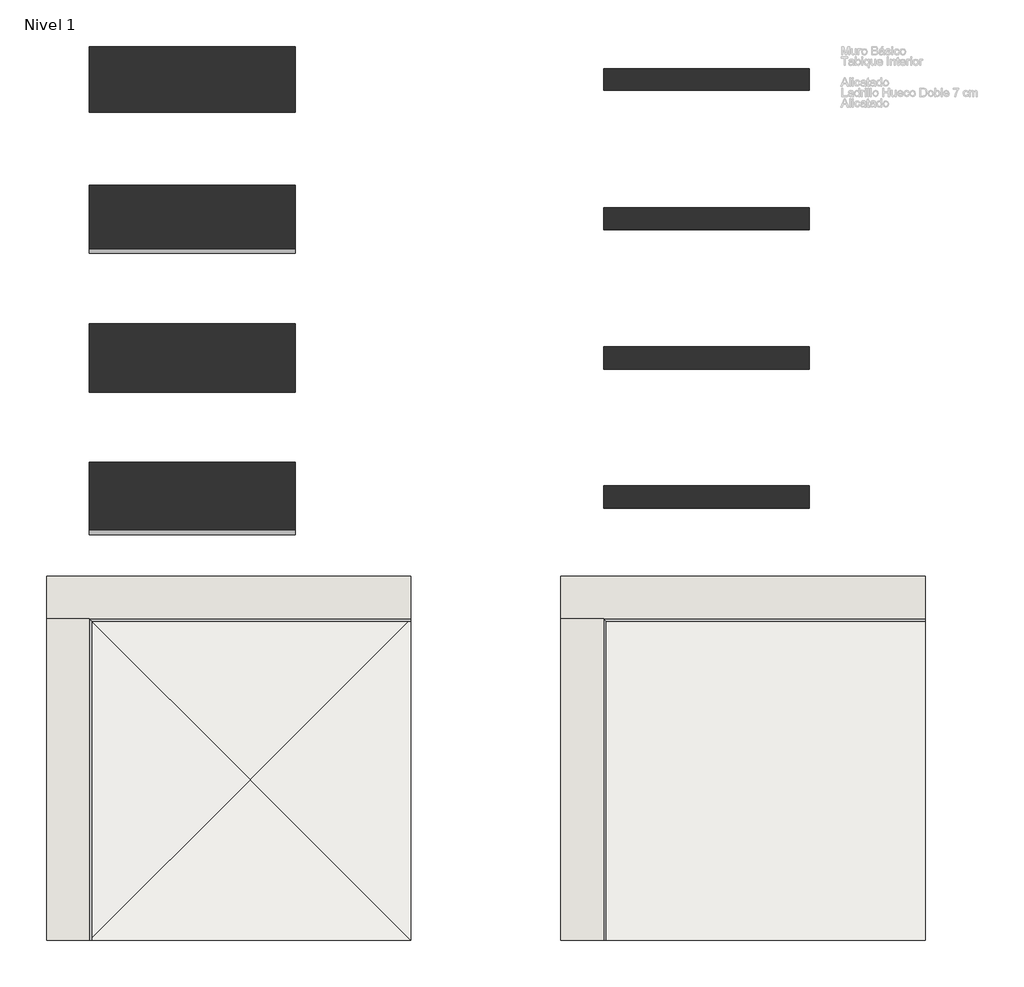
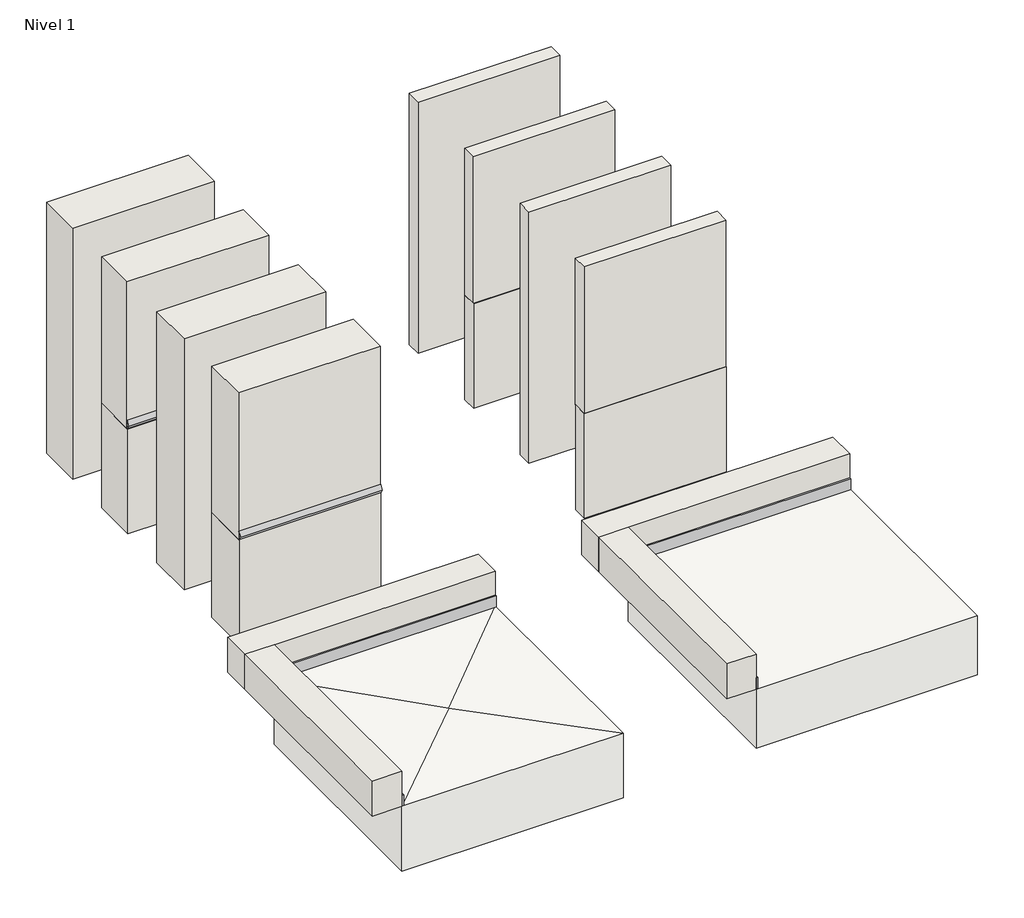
# One storey, part 1 of 2: 16 walls, 4 proxies, 2 slabs.
"""IFC4 building model written with IfcOpenShell, lengths in millimetres."""

import ifcopenshell
import ifcopenshell.guid

model = None  # the IFC model being written
_history = None  # IfcOwnerHistory: only IFC2X3 demands one
_inside = {}  # id of a spatial element -> (the spatial element, [elements in it])
_under = {}  # id of a project, library or spatial element -> (it, [spatial elements below it])
_declared = {}  # id of a project -> (the project, [libraries it declares])
_typed = {}  # id of a type object -> (the type object, [elements of that type])
_made_of = {}  # id of a material, layer set ... -> (it, [elements and type objects made of it])


def new_model(schema):
    """Start an empty IFC model of exactly this schema.

    Asked for "IFC4X3", IfcOpenShell would pick the latest addendum, in which some entities
    have other attributes; the version numbers below select the first issue.
    IFC2X3 requires an IfcOwnerHistory on every rooted entity: one is made here for all.
    """
    global model, _history
    if schema == "IFC4X3":
        model = ifcopenshell.file(schema_version=(4, 3, 0, 0))
    else:
        model = ifcopenshell.file(schema=schema)
    _inside.clear()
    _under.clear()
    _declared.clear()
    _typed.clear()
    _made_of.clear()
    _history = None
    if model.schema == "IFC2X3":
        org = make("IfcOrganization", Name="unknown")
        user = make(
            "IfcPersonAndOrganization",
            ThePerson=make("IfcPerson", FamilyName="unknown"),
            TheOrganization=org,
        )
        app = make(
            "IfcApplication",
            ApplicationDeveloper=org,
            Version="unknown",
            ApplicationFullName="unknown",
            ApplicationIdentifier="unknown",
        )
        _history = make(
            "IfcOwnerHistory",
            OwningUser=user,
            OwningApplication=app,
            ChangeAction="ADDED",
            CreationDate=0,
        )
    return model


def make(cls, **values):
    """One entity of the class cls with the attributes given. An attribute that is None is left unset."""
    return model.create_entity(
        cls, **{name: value for name, value in values.items() if value is not None}
    )


def rooted(cls, **values):
    """An entity with a GlobalId (a new one), such as an element, a storey or a relation."""
    return make(cls, GlobalId=ifcopenshell.guid.new(), OwnerHistory=_history, **values)


def si_unit(unit_type, name, prefix=None):
    """IfcSIUnit, for example si_unit("LENGTHUNIT", "METRE", prefix="MILLI")."""
    return make("IfcSIUnit", UnitType=unit_type, Prefix=prefix, Name=name)


def assignment(units):
    """IfcUnitAssignment: the units of a project."""
    return None if units is None else make("IfcUnitAssignment", Units=units)


def point(xyz):
    """IfcCartesianPoint."""
    return None if xyz is None else make("IfcCartesianPoint", Coordinates=xyz)


def direction(xyz):
    """IfcDirection."""
    return None if xyz is None else make("IfcDirection", DirectionRatios=xyz)


def frame(location, z_axis=None, x_axis=None):
    """IfcAxis2Placement3D, a coordinate frame: its origin and axes. An axis left out is left unset."""
    return make(
        "IfcAxis2Placement3D",
        Location=point(location),
        Axis=direction(z_axis),
        RefDirection=direction(x_axis),
    )


def origin():
    """The frame at (0, 0, 0) with its axes left unset."""
    return frame((0.0, 0.0, 0.0))


def origin_with_axes():
    """The frame at (0, 0, 0) with the z axis (0, 0, 1) and the x axis (1, 0, 0) written out."""
    return frame((0.0, 0.0, 0.0), z_axis=(0.0, 0.0, 1.0), x_axis=(1.0, 0.0, 0.0))


def place(relative_to, where):
    """IfcLocalPlacement: puts the frame where relative to a parent placement (None: the world)."""
    return make(
        "IfcLocalPlacement", PlacementRelTo=relative_to, RelativePlacement=where
    )


def context(
    kind, dimensions, precision=None, world=None, true_north=None, identifier=None
):
    """IfcGeometricRepresentationContext, for example the 3D "Model" context."""
    return make(
        "IfcGeometricRepresentationContext",
        ContextIdentifier=identifier,
        ContextType=kind,
        CoordinateSpaceDimension=dimensions,
        Precision=precision,
        WorldCoordinateSystem=world,
        TrueNorth=true_north,
    )


def project(units=None, contexts=None):
    """IfcProject with its units and contexts."""
    return rooted(
        "IfcProject",
        Name="project",
        RepresentationContexts=contexts,
        UnitsInContext=assignment(units),
    )


def spatial(cls, under=None, at=None, **own):
    """A site, building, storey or space (cls), placed at a placement, below another one or the project."""
    s = rooted(cls, ObjectPlacement=at, **own)
    if under is not None:
        _under.setdefault(under.id(), (under, []))[1].append(s)
    return s


def polyline(points):
    """IfcPolyline through the points."""
    return make("IfcPolyline", Points=[point(p) for p in points])


def outline(outer, holes=None, kind="AREA"):
    """IfcArbitraryClosedProfileDef: a profile drawn as a closed curve; with holes, ...WithVoids."""
    if holes is None:
        return make("IfcArbitraryClosedProfileDef", ProfileType=kind, OuterCurve=outer)
    return make(
        "IfcArbitraryProfileDefWithVoids",
        ProfileType=kind,
        OuterCurve=outer,
        InnerCurves=holes,
    )


def extrude(swept, where, along, depth):
    """IfcExtrudedAreaSolid: the profile swept, set in the frame where, extruded along a direction by depth."""
    return make(
        "IfcExtrudedAreaSolid",
        SweptArea=swept,
        Position=where,
        ExtrudedDirection=direction(along),
        Depth=depth,
    )


def faces_of(points, faces, orient=None, outer=None):
    """IfcFace entities. A face is a list of loops; a loop is a list of indices into points, from 0.

    orient and outer hold one flag for each loop. By default every Orientation is true, the
    first loop of a face is its IfcFaceOuterBound and the others are IfcFaceBound.
    """
    made = []
    for i, loops in enumerate(faces):
        bounds = []
        for j, loop in enumerate(loops):
            is_outer = j == 0 if outer is None else outer[i][j]
            bounds.append(
                make(
                    "IfcFaceOuterBound" if is_outer else "IfcFaceBound",
                    Bound=make("IfcPolyLoop", Polygon=[points[k] for k in loop]),
                    Orientation=True if orient is None else orient[i][j],
                )
            )
        made.append(make("IfcFace", Bounds=bounds))
    return made


def faceted_brep(points, faces, orient=None, outer=None, voids=None):
    """IfcFacetedBrep: a solid bounded by flat faces; with voids (closed shells), ...WithVoids."""
    shared = [point(p) for p in points]
    hull = make("IfcClosedShell", CfsFaces=faces_of(shared, faces, orient, outer))
    if voids is None:
        return make("IfcFacetedBrep", Outer=hull)
    return make(
        "IfcFacetedBrepWithVoids",
        Outer=hull,
        Voids=[
            make(cls, CfsFaces=faces_of(shared, fs, o, b)) for cls, fs, o, b in voids
        ],
    )


def shape(context_of_items, identifier, shape_type, items):
    """IfcShapeRepresentation: the items that make up one representation, for example the "Body"."""
    return make(
        "IfcShapeRepresentation",
        ContextOfItems=context_of_items,
        RepresentationIdentifier=identifier,
        RepresentationType=shape_type,
        Items=items,
    )


def made_of(thing, what):
    """Note that an element or type object is made of a material, layer set ...; save() writes the relation."""
    if what is not None:
        _made_of.setdefault(what.id(), (what, []))[1].append(thing)
    return thing


def element(
    cls,
    number,
    at=None,
    inside=None,
    cuts=None,
    type_object=None,
    material=None,
    context=None,
    identifier="Body",
    shape_type=None,
    held_by="IfcProductDefinitionShape",
    body=None,
    shapes=None,
    **own,
):
    """One element of the class cls, such as IfcWall. Its Tag is "e" and its number.

    at: its placement. inside: the storey or other place that contains it. cuts: it is an
    opening in that element (IfcRelVoidsElement). A single representation is given by context,
    identifier, shape_type and body (its items); several are given by shapes. held_by: the class
    of the entity that holds the representations. save() writes the other relations.
    """
    e = rooted(cls, Tag="e%d" % number, ObjectPlacement=at, **own)
    if body is not None:
        shapes = [shape(context, identifier, shape_type, body)]
    if shapes is not None:
        e.Representation = make(held_by, Representations=shapes)
    if inside is not None:
        _inside.setdefault(inside.id(), (inside, []))[1].append(e)
    if cuts is not None:
        rooted(
            "IfcRelVoidsElement", RelatingBuildingElement=cuts, RelatedOpeningElement=e
        )
    if type_object is not None:
        _typed.setdefault(type_object.id(), (type_object, []))[1].append(e)
    return made_of(e, material)


def aggregate(whole, parts):
    """IfcRelAggregates: a whole, such as a stair, and the parts it consists of."""
    return rooted("IfcRelAggregates", RelatingObject=whole, RelatedObjects=parts)


def save(model, path):
    """Write the relations noted so far, then the file.

    IfcRelAggregates (storeys below a building ...), IfcRelContainedInSpatialStructure (elements
    in a storey), IfcRelDefinesByType, IfcRelAssociatesMaterial and IfcRelDeclares: one each for
    every whole, place, type object, material and project.
    """
    for whole, parts in _under.values():
        aggregate(whole, parts)
    for where, things in _inside.values():
        rooted(
            "IfcRelContainedInSpatialStructure",
            RelatedElements=things,
            RelatingStructure=where,
        )
    for kind, things in _typed.values():
        rooted("IfcRelDefinesByType", RelatedObjects=things, RelatingType=kind)
    for what, things in _made_of.values():
        rooted("IfcRelAssociatesMaterial", RelatedObjects=things, RelatingMaterial=what)
    for by, libraries in _declared.values():
        rooted("IfcRelDeclares", RelatingContext=by, RelatedDefinitions=libraries)
    model.write(path)


model = new_model("IFC4")

# Units and contexts
model_context = context("Model", 3, world=origin())
ifc_project = project(units=[si_unit("LENGTHUNIT", "METRE", prefix="MILLI")], contexts=[model_context])

# Site, building, storey
site = spatial("IfcSite", under=ifc_project)
building = spatial("IfcBuilding", under=site)
storey = spatial("IfcBuildingStorey", under=building, Name="Nivel 1", Elevation=0.0)

# Proxies
placement = place(None, origin())
element("IfcBuildingElementProxy", 1, Name="Cesantoni_Kiel_8x60_RO_Sand_Mate", ObjectType="Cesantoni_Kiel_8x60_RO_Sand_Mate", at=placement, inside=storey, context=model_context, shape_type="SweptSolid", body=[
    extrude(outline(polyline([(-7355.540849, -3634.4607854), (-7344.540849, -3645.4607854), (-7344.540849, -5134.4607854), (-7355.540849, -5134.4607854), (-7355.540849, -3634.4607854)])), origin_with_axes(), (0.0, 0.0, 1.0), 80.0),
    extrude(outline(polyline([(-5855.540849, -3634.4607854), (-5855.540849, -3645.4607854), (-7344.540849, -3645.4607854), (-7355.540849, -3634.4607854), (-5855.540849, -3634.4607854)])), origin_with_axes(), (0.0, 0.0, 1.0), 80.0),
])
element("IfcBuildingElementProxy", 2, Name="Cesantoni_Kiel_8x60_RO_Sand_Mate", ObjectType="Cesantoni_Kiel_8x60_RO_Sand_Mate", at=placement, inside=storey, context=model_context, shape_type="SweptSolid", body=[
    extrude(outline(polyline([(-4955.540849, -3634.4607854), (-4944.540849, -3645.4607854), (-4944.540849, -5134.4607854), (-4955.540849, -5134.4607854), (-4955.540849, -3634.4607854)])), origin_with_axes(), (0.0, 0.0, 1.0), 80.0),
    extrude(outline(polyline([(-3455.540849, -3634.4607854), (-3455.540849, -3645.4607854), (-4944.540849, -3645.4607854), (-4955.540849, -3634.4607854), (-3455.540849, -3634.4607854)])), origin_with_axes(), (0.0, 0.0, 1.0), 80.0),
])
element("IfcBuildingElementProxy", 3, Name="Cesantoni_Cascata_30x6_Sand_Mate", ObjectType="Cesantoni_Cascata_30x6_Sand_Mate", at=placement, inside=storey, context=model_context, shape_type="SweptSolid", body=[
    extrude(outline(polyline([(-1928.2095653, 780.0), (-1909.2095653, 810.0), (-1909.2095653, 797.8516499), (-1920.5156103, 780.0), (-1909.2095653, 762.1483501), (-1909.2095653, 750.0), (-1928.2095653, 780.0)])), frame((-7355.540849, 0.0, 0.0), z_axis=(1.0, 0.0, 0.0), x_axis=(0.0, 1.0, 0.0)), (0.0, 0.0, 1.0), 960.0),
])
element("IfcBuildingElementProxy", 4, Name="Cesantoni_Cascata_30x6_Sand_Mate", ObjectType="Cesantoni_Cascata_30x6_Sand_Mate", at=placement, inside=storey, context=model_context, shape_type="SweptSolid", body=[
    extrude(outline(polyline([(-3240.3345653, 780.0), (-3221.3345653, 810.0), (-3221.3345653, 797.8516499), (-3232.6406103, 780.0), (-3221.3345653, 762.1483501), (-3221.3345653, 750.0), (-3240.3345653, 780.0)])), frame((-7355.540849, 0.0, 0.0), z_axis=(1.0, 0.0, 0.0), x_axis=(0.0, 1.0, 0.0)), (0.0, 0.0, 1.0), 960.0),
])

# Slabs
element("IfcSlab", 5, ObjectType="Suelo Exterior", at=placement, inside=storey, context=model_context, shape_type="Brep", body=[
    faceted_brep([(-5855.540849, -3634.4607854, -464.0), (-5855.540849, -5134.4607854, -464.0), (-7355.540849, -5134.4607854, -464.0), (-7355.540849, -3634.4607854, -464.0), (-5855.540849, -3634.4607854, 0.0), (-5855.540849, -5134.4607854, 0.0), (-7355.540849, -5134.4607854, 0.0), (-7355.540849, -3634.4607854, 0.0), (-6605.540849, -4384.4607854, -15.0)], [[[0, 1, 2, 3]], [[1, 0, 4, 5]], [[2, 1, 5, 6]], [[3, 2, 6, 7]], [[0, 3, 7, 4]], [[7, 6, 8]], [[5, 4, 8]], [[6, 5, 8]], [[7, 8, 4]]]),
])
element("IfcSlab", 6, ObjectType="Suelo Interior", at=placement, inside=storey, context=model_context, shape_type="SweptSolid", body=[
    extrude(outline(polyline([(-3455.540849, -3634.4607854), (-3455.540849, -5134.4607854), (-4955.540849, -5134.4607854), (-4955.540849, -3634.4607854), (-3455.540849, -3634.4607854)])), frame((0.0, 0.0, -424.0), z_axis=(0.0, 0.0, 1.0), x_axis=(1.0, 0.0, 0.0)), (0.0, 0.0, 1.0), 424.0),
])

# Walls
element("IfcWall", 7, ObjectType="Fachada monocapa + Alicatado interior", at=placement, inside=storey, context=model_context, shape_type="SweptSolid", body=[
    extrude(outline(polyline([(-6395.540849, -1270.3345653), (-7355.540849, -1270.3345653), (-7355.540849, -963.3345653), (-6395.540849, -963.3345653), (-6395.540849, -1270.3345653)])), origin_with_axes(), (0.0, 0.0, 1.0), 1800.0),
])
element("IfcWall", 8, ObjectType="Tabique interior_Alicatado+LHD 7cm+Alicatado", at=placement, inside=storey, context=model_context, shape_type="SweptSolid", body=[
    extrude(outline(polyline([(-3995.540849, -1167.8345653), (-4955.540849, -1167.8345653), (-4955.540849, -1065.8345653), (-3995.540849, -1065.8345653), (-3995.540849, -1167.8345653)])), origin_with_axes(), (0.0, 0.0, 1.0), 1800.0),
])
element("IfcWall", 9, ObjectType="Fachada monocapa + Alicatado interior", at=placement, inside=storey, context=model_context, shape_type="Brep", body=[
    faceted_brep([(-6395.540849, -1609.3345653, 0.0), (-7355.540849, -1609.3345653, 0.0), (-7355.540849, -1609.3345653, 750.0), (-6395.540849, -1609.3345653, 750.0), (-6395.540849, -1916.3345653, 0.0), (-6395.540849, -1916.3345653, 750.0), (-7355.540849, -1916.3345653, 750.0), (-7355.540849, -1916.3345653, 0.0), (-7355.540849, -1907.3345653, 750.0), (-6395.540849, -1907.3345653, 750.0)], [[[0, 1, 2, 3]], [[4, 5, 6, 7]], [[1, 0, 4, 7]], [[2, 1, 7, 6, 8]], [[3, 2, 8, 6, 5, 9]], [[0, 3, 9, 5, 4]]]),
])
element("IfcWall", 10, ObjectType="Tabique interior_Alicatado+LHD 7cm+Alicatado", at=placement, inside=storey, context=model_context, shape_type="Brep", body=[
    faceted_brep([(-3995.540849, -1715.8345653, 0.0), (-4955.540849, -1715.8345653, 0.0), (-4955.540849, -1715.8345653, 750.0), (-3995.540849, -1715.8345653, 750.0), (-3995.540849, -1817.8345653, 0.0), (-3995.540849, -1817.8345653, 750.0), (-4955.540849, -1817.8345653, 750.0), (-4955.540849, -1817.8345653, 0.0), (-4955.540849, -1814.8345653, 750.0), (-3995.540849, -1814.8345653, 750.0)], [[[0, 1, 2, 3]], [[4, 5, 6, 7]], [[1, 0, 4, 7]], [[2, 1, 7, 6, 8]], [[3, 2, 8, 6, 5, 9]], [[0, 3, 9, 5, 4]]]),
])
element("IfcWall", 11, ObjectType="Tabique interior_Alicatado+LHD 7cm+Enlucido", at=placement, inside=storey, context=model_context, shape_type="Brep", body=[
    faceted_brep([(-3995.540849, -1714.8345653, 750.0), (-4955.540849, -1714.8345653, 750.0), (-4955.540849, -1714.8345653, 1800.0), (-3995.540849, -1714.8345653, 1800.0), (-3995.540849, -1814.8345653, 750.0), (-3995.540849, -1814.8345653, 1800.0), (-4955.540849, -1814.8345653, 1800.0), (-4955.540849, -1814.8345653, 750.0), (-3995.540849, -1715.8345653, 750.0), (-4955.540849, -1715.8345653, 750.0)], [[[0, 1, 2, 3]], [[4, 5, 6, 7]], [[1, 0, 8, 4, 7, 9]], [[2, 1, 9, 7, 6]], [[3, 2, 6, 5]], [[0, 3, 5, 4, 8]]]),
])
element("IfcWall", 12, ObjectType="Fachada monocapa+ Placa yeso + Alicatado", at=placement, inside=storey, context=model_context, shape_type="SweptSolid", body=[
    extrude(outline(polyline([(-6395.540849, -2576.8345653), (-7355.540849, -2576.8345653), (-7355.540849, -2256.8345653), (-6395.540849, -2256.8345653), (-6395.540849, -2576.8345653)])), origin_with_axes(), (0.0, 0.0, 1.0), 1800.0),
])
element("IfcWall", 13, ObjectType="Fachada monocapa+ Placa yeso + Alicatado", at=placement, inside=storey, context=model_context, shape_type="Brep", body=[
    faceted_brep([(-6395.540849, -2902.8345653, 0.0), (-7355.540849, -2902.8345653, 0.0), (-7355.540849, -2902.8345653, 750.0), (-6395.540849, -2902.8345653, 750.0), (-6395.540849, -3222.8345653, 0.0), (-6395.540849, -3222.8345653, 750.0), (-7355.540849, -3222.8345653, 750.0), (-7355.540849, -3222.8345653, 0.0), (-7355.540849, -3218.8345653, 750.0), (-6395.540849, -3218.8345653, 750.0)], [[[0, 1, 2, 3]], [[4, 5, 6, 7]], [[1, 0, 4, 7]], [[2, 1, 7, 6, 8]], [[3, 2, 8, 6, 5, 9]], [[0, 3, 9, 5, 4]]]),
])
element("IfcWall", 14, ObjectType="Tabique interior_Alicatado+Placa yeso+Alicatado", at=placement, inside=storey, context=model_context, shape_type="SweptSolid", body=[
    extrude(outline(polyline([(-3995.540849, -2468.8345653), (-4955.540849, -2468.8345653), (-4955.540849, -2364.8345653), (-3995.540849, -2364.8345653), (-3995.540849, -2468.8345653)])), origin_with_axes(), (0.0, 0.0, 1.0), 1800.0),
])
element("IfcWall", 15, ObjectType="Tabique interior_Alicatado+Placa yeso+Alicatado", at=placement, inside=storey, context=model_context, shape_type="Brep", body=[
    faceted_brep([(-3995.540849, -3014.8345653, 0.0), (-4955.540849, -3014.8345653, 0.0), (-4955.540849, -3014.8345653, 750.0), (-3995.540849, -3014.8345653, 750.0), (-3995.540849, -3118.8345653, 0.0), (-3995.540849, -3118.8345653, 750.0), (-4955.540849, -3118.8345653, 750.0), (-4955.540849, -3118.8345653, 0.0), (-4955.540849, -3115.8345653, 750.0), (-3995.540849, -3115.8345653, 750.0)], [[[0, 1, 2, 3]], [[4, 5, 6, 7]], [[1, 0, 4, 7]], [[2, 1, 7, 6, 8]], [[3, 2, 8, 6, 5, 9]], [[0, 3, 9, 5, 4]]]),
])
element("IfcWall", 16, ObjectType="Tabique interior_Alicatado+Placa yeso+Enlucido", at=placement, inside=storey, context=model_context, shape_type="Brep", body=[
    faceted_brep([(-3995.540849, -3013.8345653, 750.0), (-4955.540849, -3013.8345653, 750.0), (-4955.540849, -3013.8345653, 1800.0), (-3995.540849, -3013.8345653, 1800.0), (-3995.540849, -3115.8345653, 750.0), (-3995.540849, -3115.8345653, 1800.0), (-4955.540849, -3115.8345653, 1800.0), (-4955.540849, -3115.8345653, 750.0), (-3995.540849, -3014.8345653, 750.0), (-4955.540849, -3014.8345653, 750.0)], [[[0, 1, 2, 3]], [[4, 5, 6, 7]], [[1, 0, 8, 4, 7, 9]], [[2, 1, 9, 7, 6]], [[3, 2, 6, 5]], [[0, 3, 5, 4, 8]]]),
])
element("IfcWall", 17, ObjectType="Genérico - 200 mm", at=placement, inside=storey, context=model_context, shape_type="Brep", body=[
    faceted_brep([(-5855.540849, -3434.4607854, 0.0), (-7555.540849, -3434.4607854, 0.0), (-7555.540849, -3434.4607854, 250.0), (-5855.540849, -3434.4607854, 250.0), (-5855.540849, -3634.4607854, 0.0), (-5855.540849, -3634.4607854, 250.0), (-7355.540849, -3634.4607854, 250.0), (-7555.540849, -3634.4607854, 250.0), (-7555.540849, -3634.4607854, 0.0), (-7355.540849, -3634.4607854, 0.0)], [[[0, 1, 2, 3]], [[4, 5, 6, 7, 8, 9]], [[1, 0, 4, 9, 8]], [[3, 2, 7, 6, 5]], [[0, 3, 5, 4]], [[2, 1, 8, 7]]]),
])
element("IfcWall", 18, ObjectType="Genérico - 200 mm", at=placement, inside=storey, context=model_context, shape_type="SweptSolid", body=[
    extrude(outline(polyline([(-7555.540849, -5134.4607854), (-7555.540849, -3634.4607854), (-7355.540849, -3634.4607854), (-7355.540849, -5134.4607854), (-7555.540849, -5134.4607854)])), origin_with_axes(), (0.0, 0.0, 1.0), 250.0),
])
element("IfcWall", 19, ObjectType="Genérico - 200 mm", at=placement, inside=storey, context=model_context, shape_type="Brep", body=[
    faceted_brep([(-3455.540849, -3434.4607854, 0.0), (-5155.540849, -3434.4607854, 0.0), (-5155.540849, -3434.4607854, 250.0), (-3455.540849, -3434.4607854, 250.0), (-3455.540849, -3634.4607854, 0.0), (-3455.540849, -3634.4607854, 250.0), (-4955.540849, -3634.4607854, 250.0), (-5155.540849, -3634.4607854, 250.0), (-5155.540849, -3634.4607854, 0.0), (-4955.540849, -3634.4607854, 0.0)], [[[0, 1, 2, 3]], [[4, 5, 6, 7, 8, 9]], [[1, 0, 4, 9, 8]], [[3, 2, 7, 6, 5]], [[0, 3, 5, 4]], [[2, 1, 8, 7]]]),
])
element("IfcWall", 20, ObjectType="Genérico - 200 mm", at=placement, inside=storey, context=model_context, shape_type="SweptSolid", body=[
    extrude(outline(polyline([(-5155.540849, -5134.4607854), (-5155.540849, -3634.4607854), (-4955.540849, -3634.4607854), (-4955.540849, -5134.4607854), (-5155.540849, -5134.4607854)])), origin_with_axes(), (0.0, 0.0, 1.0), 250.0),
])
element("IfcWall", 21, ObjectType="Fachada monocapa +Enlucido + Pintura", at=placement, inside=storey, context=model_context, shape_type="SweptSolid", body=[
    extrude(outline(polyline([(-7355.540849, -1609.3345653), (-6395.540849, -1609.3345653), (-6395.540849, -1907.3345653), (-7355.540849, -1907.3345653), (-7355.540849, -1609.3345653)])), frame((0.0, 0.0, 750.0), z_axis=(0.0, 0.0, 1.0), x_axis=(1.0, 0.0, 0.0)), (0.0, 0.0, 1.0), 1050.0),
])
element("IfcWall", 22, ObjectType="Fachada monocapa+ Placa yeso + Enlucido yeso + Pintura", at=placement, inside=storey, context=model_context, shape_type="SweptSolid", body=[
    extrude(outline(polyline([(-7355.540849, -2902.8345653), (-6395.540849, -2902.8345653), (-6395.540849, -3218.8345653), (-7355.540849, -3218.8345653), (-7355.540849, -2902.8345653)])), frame((0.0, 0.0, 750.0), z_axis=(0.0, 0.0, 1.0), x_axis=(1.0, 0.0, 0.0)), (0.0, 0.0, 1.0), 1050.0),
])

save(model, "model.ifc")
